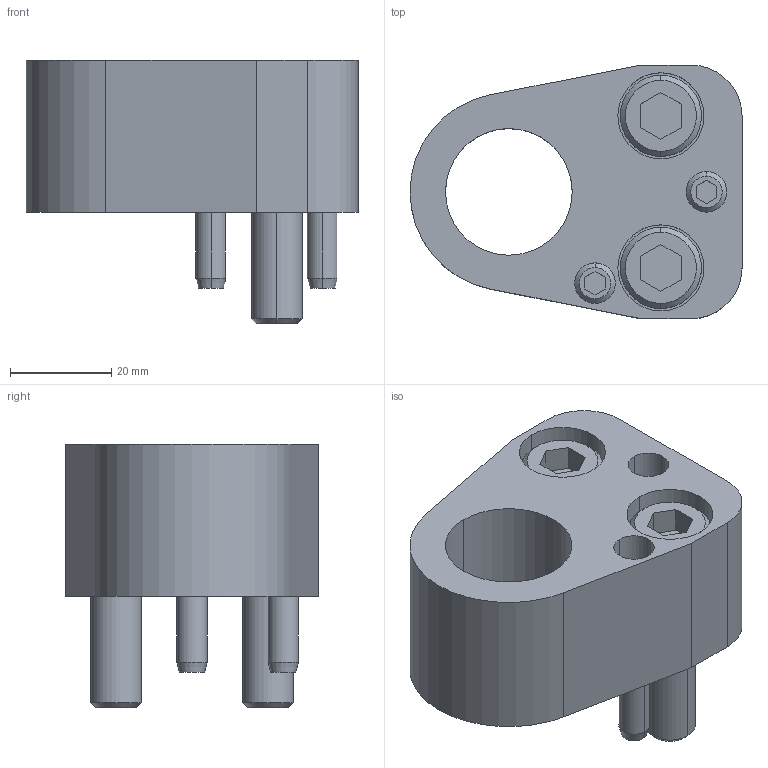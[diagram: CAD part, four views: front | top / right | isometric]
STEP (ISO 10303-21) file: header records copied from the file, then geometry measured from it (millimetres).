
FILE_DESCRIPTION(/* description */ (''),/* implementation_level */ '2;1');
FILE_NAME(/* name */ '3d_cpar25_02846_r00.stp',/* time_stamp */ '2011-01-10T14:16:26+09:00',/* author */ ('MISUMI'),/* organization */ (''),/* preprocessor_version */ 'ST-DEVELOPER v11',/* originating_system */ 'UGS - NX 5.0',/* authorisation */ '');
FILE_SCHEMA (('CONFIG_CONTROL_DESIGN'));
Length unit declared in the file: millimetre
Products named in the file (1): 3d_cpar25_02846_r00
Bounding box: 65.5 x 50 x 52 mm (x, y, z)
Volume: 66686.3 mm3; surface area: 22691 mm2
Topology: 7 solids, 7 shells, 135 faces, 292 edges, 186 vertices
Faces by surface type: plane 60, cylinder 49, cone 26
Entity records: 3816 total; most frequent: DIRECTION 684, CARTESIAN_POINT 662, ORIENTED_EDGE 584, EDGE_CURVE 292, AXIS2_PLACEMENT_3D 260, VERTEX_POINT 186, LINE 164, VECTOR 164
